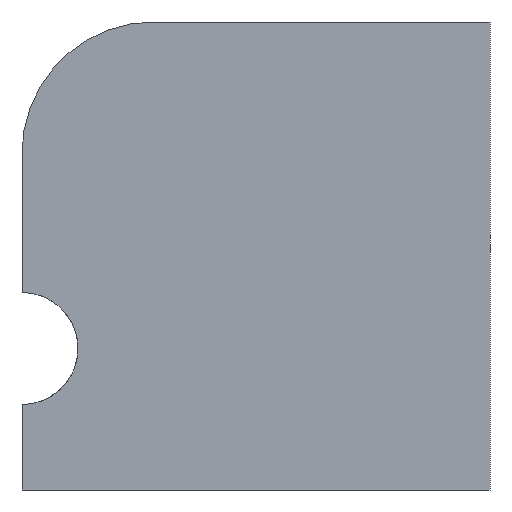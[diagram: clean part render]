
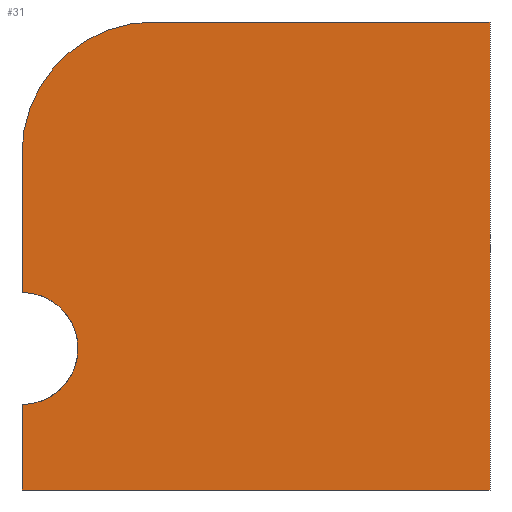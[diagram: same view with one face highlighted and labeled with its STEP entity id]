
A CAD part, front view. The second image highlights one B-rep face of the part: STEP entity #31.
In plain terms, the highlighted planar face has unit normal (0, -1, 0).
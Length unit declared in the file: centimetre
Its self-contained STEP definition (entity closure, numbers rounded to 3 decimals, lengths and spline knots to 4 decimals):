
#2 = VERTEX_POINT ( 'NONE', #60 ) ;
#14 = PLANE ( 'NONE',  #65 ) ;
#31 = ADVANCED_FACE ( 'NONE', ( #224 ), #14, .F. ) ;
#46 = ORIENTED_EDGE ( 'NONE', *, *, #213, .T. ) ;
#48 = DIRECTION ( 'NONE',  ( 0., -1., 0. ) ) ;
#51 = VECTOR ( 'NONE', #429, 100. ) ;
#54 = DIRECTION ( 'NONE',  ( 0., 0., -1. ) ) ;
#60 = CARTESIAN_POINT ( 'NONE',  ( 0., 0., 421.9627 ) ) ;
#63 = DIRECTION ( 'NONE',  ( 1., 0., 0. ) ) ;
#65 = AXIS2_PLACEMENT_3D ( 'NONE', #229, #361, #99 ) ;
#71 = CARTESIAN_POINT ( 'NONE',  ( 0., 0., 0. ) ) ;
#82 = EDGE_CURVE ( 'NONE', #136, #103, #298, .T. ) ;
#99 = DIRECTION ( 'NONE',  ( 0., 0., 1. ) ) ;
#100 = CARTESIAN_POINT ( 'NONE',  ( 0., 0., 302.3127 ) ) ;
#103 = VERTEX_POINT ( 'NONE', #332 ) ;
#118 = VERTEX_POINT ( 'NONE', #122 ) ;
#119 = EDGE_CURVE ( 'NONE', #136, #118, #154, .T. ) ;
#122 = CARTESIAN_POINT ( 'NONE',  ( 0., 0., 719.0374 ) ) ;
#123 = ORIENTED_EDGE ( 'NONE', *, *, #82, .F. ) ;
#124 = DIRECTION ( 'NONE',  ( 0., 0., 1. ) ) ;
#136 = VERTEX_POINT ( 'NONE', #231 ) ;
#138 = EDGE_CURVE ( 'NONE', #118, #2, #368, .T. ) ;
#143 = ORIENTED_EDGE ( 'NONE', *, *, #364, .T. ) ;
#150 = EDGE_CURVE ( 'NONE', #425, #2, #351, .T. ) ;
#152 = ORIENTED_EDGE ( 'NONE', *, *, #372, .F. ) ;
#154 = CIRCLE ( 'NONE', #405, 280.9626 ) ;
#169 = CARTESIAN_POINT ( 'NONE',  ( 0., 0., 1000. ) ) ;
#189 = ORIENTED_EDGE ( 'NONE', *, *, #119, .T. ) ;
#191 = LINE ( 'NONE', #169, #217 ) ;
#213 = EDGE_CURVE ( 'NONE', #425, #327, #191, .T. ) ;
#217 = VECTOR ( 'NONE', #437, 100. ) ;
#224 = FACE_OUTER_BOUND ( 'NONE', #307, .T. ) ;
#229 = CARTESIAN_POINT ( 'NONE',  ( 0., 0., 1000. ) ) ;
#231 = CARTESIAN_POINT ( 'NONE',  ( 280.9626, 0., 1000. ) ) ;
#263 = VECTOR ( 'NONE', #408, 100. ) ;
#268 = CARTESIAN_POINT ( 'NONE',  ( 0., 0., 0. ) ) ;
#271 = CARTESIAN_POINT ( 'NONE',  ( 1000., 0., 0. ) ) ;
#275 = LINE ( 'NONE', #71, #263 ) ;
#298 = LINE ( 'NONE', #370, #326 ) ;
#301 = CARTESIAN_POINT ( 'NONE',  ( 0., 0., 1000. ) ) ;
#307 = EDGE_LOOP ( 'NONE', ( #323, #377, #46, #143, #152, #123, #189 ) ) ;
#308 = CARTESIAN_POINT ( 'NONE',  ( 1000., 0., 1000. ) ) ;
#311 = LINE ( 'NONE', #308, #423 ) ;
#323 = ORIENTED_EDGE ( 'NONE', *, *, #138, .T. ) ;
#326 = VECTOR ( 'NONE', #63, 100. ) ;
#327 = VERTEX_POINT ( 'NONE', #268 ) ;
#332 = CARTESIAN_POINT ( 'NONE',  ( 1000., 0., 1000. ) ) ;
#345 = CARTESIAN_POINT ( 'NONE',  ( 0., 0., 182.6626 ) ) ;
#351 = CIRCLE ( 'NONE', #363, 119.65 ) ;
#357 = CARTESIAN_POINT ( 'NONE',  ( 280.9626, 0., 719.0374 ) ) ;
#361 = DIRECTION ( 'NONE',  ( 0., 1., 0. ) ) ;
#363 = AXIS2_PLACEMENT_3D ( 'NONE', #100, #399, #54 ) ;
#364 = EDGE_CURVE ( 'NONE', #327, #395, #275, .T. ) ;
#368 = LINE ( 'NONE', #301, #51 ) ;
#370 = CARTESIAN_POINT ( 'NONE',  ( 0., 0., 1000. ) ) ;
#372 = EDGE_CURVE ( 'NONE', #103, #395, #311, .T. ) ;
#377 = ORIENTED_EDGE ( 'NONE', *, *, #150, .F. ) ;
#395 = VERTEX_POINT ( 'NONE', #271 ) ;
#399 = DIRECTION ( 'NONE',  ( 0., -1., 0. ) ) ;
#405 = AXIS2_PLACEMENT_3D ( 'NONE', #357, #48, #124 ) ;
#408 = DIRECTION ( 'NONE',  ( 1., 0., 0. ) ) ;
#423 = VECTOR ( 'NONE', #439, 100. ) ;
#425 = VERTEX_POINT ( 'NONE', #345 ) ;
#429 = DIRECTION ( 'NONE',  ( 0., 0., -1. ) ) ;
#437 = DIRECTION ( 'NONE',  ( 0., 0., -1. ) ) ;
#439 = DIRECTION ( 'NONE',  ( 0., 0., -1. ) ) ;
